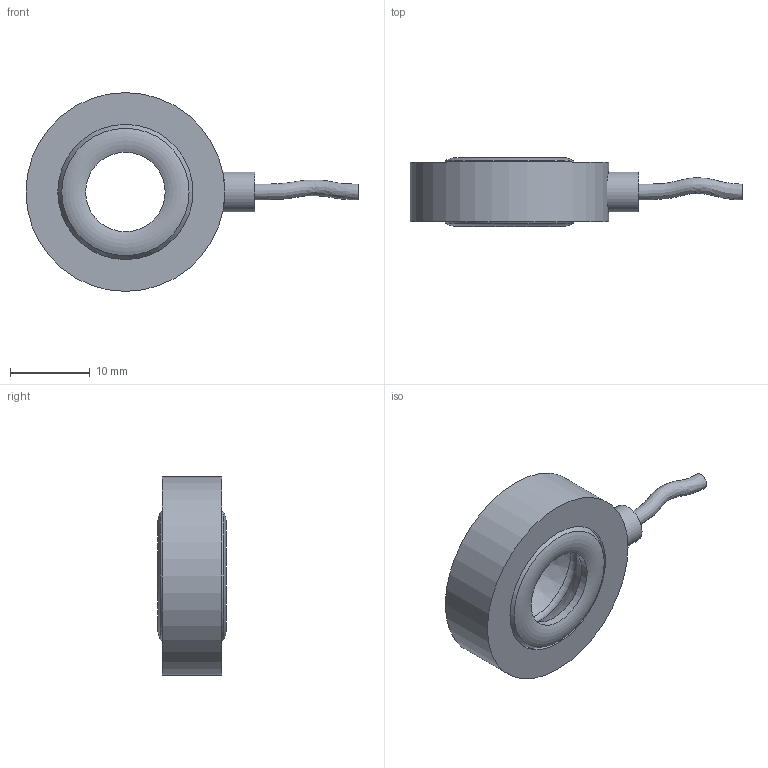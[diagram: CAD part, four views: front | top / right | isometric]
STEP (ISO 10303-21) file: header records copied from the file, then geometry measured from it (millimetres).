
FILE_DESCRIPTION(/* description */ ('Alibre Inc.'),/* implementation_level */ '2;1');
FILE_NAME(/* name */ 'export-77225B1E-2381-48BF-8B83-1E6D6B454D67',/* time_stamp */ '2019-05-16T09:43:34+02:00',/* author */ (''),/* organization */ (''),/* preprocessor_version */ 'ST-DEVELOPER v17',/* originating_system */ 'Alibre',/* authorisation */ '');
FILE_SCHEMA (('CONFIG_CONTROL_DESIGN'));
Length unit declared in the file: centimetre
Products named in the file (7): ID_1; ID_2; ID_3
Bounding box: 41.75 x 8.68 x 25 mm (x, y, z)
Volume: 3870.7 mm3; surface area: 4489.2 mm2
Topology: 6 solids, 6 shells, 47 faces, 92 edges, 55 vertices
Faces by surface type: cylinder 18, plane 12, cone 10, torus 6, bspline 1
Full cylindrical faces by diameter (mm): 2.2 x1, 3.4 x1, 3.5 x1, 5 x1, 10 x4, 17 x1, 17.5 x1, 20 x2, 22 x1, 23.4 x1, 23.5 x1, 25 x1
Entity records: 1750 total; most frequent: CARTESIAN_POINT 359, DIRECTION 153, ORIENTED_EDGE 86, AXIS2_PLACEMENT_3D 83, EDGE_LOOP 71, FACE_BOUND 71, PERSON_AND_ORGANIZATION 70, COORDINATED_UNIVERSAL_TIME_OFFSET 49
